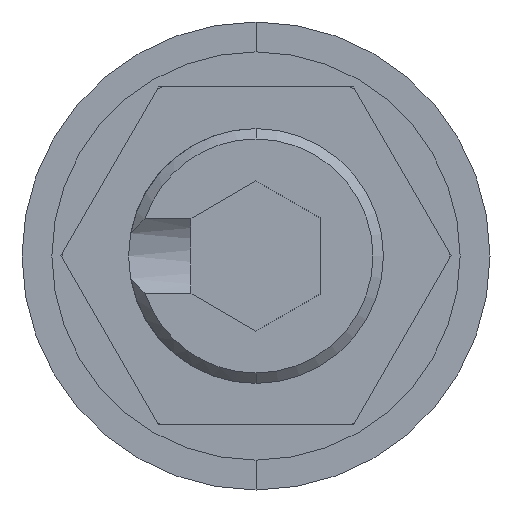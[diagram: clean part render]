
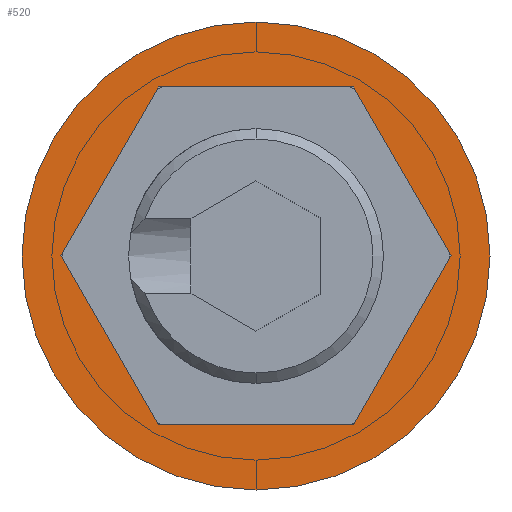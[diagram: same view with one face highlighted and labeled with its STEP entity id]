
A CAD part, front view. The second image highlights one B-rep face of the part: STEP entity #520.
In plain terms, the highlighted planar face has unit normal (0, -1, 0).
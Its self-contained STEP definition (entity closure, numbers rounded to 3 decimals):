
#70 = DIRECTION ( 'NONE',  ( -0.5, 0., -0.866 ) ) ;
#109 = EDGE_CURVE ( 'NONE', #986, #1974, #961, .T. ) ;
#110 = VERTEX_POINT ( 'NONE', #370 ) ;
#119 = VERTEX_POINT ( 'NONE', #400 ) ;
#149 = VECTOR ( 'NONE', #70, 1000. ) ;
#161 = ORIENTED_EDGE ( 'NONE', *, *, #787, .F. ) ;
#186 = CIRCLE ( 'NONE', #1338, 4.5 ) ;
#190 = AXIS2_PLACEMENT_3D ( 'NONE', #962, #971, #975 ) ;
#196 = LINE ( 'NONE', #419, #149 ) ;
#198 = VECTOR ( 'NONE', #1931, 1000. ) ;
#342 = ORIENTED_EDGE ( 'NONE', *, *, #1823, .F. ) ;
#366 = DIRECTION ( 'NONE',  ( -0.5, 0., 0.866 ) ) ;
#368 = CARTESIAN_POINT ( 'NONE',  ( 3.753, 0., 0. ) ) ;
#370 = CARTESIAN_POINT ( 'NONE',  ( -1.876, 0., 3.25 ) ) ;
#374 = LINE ( 'NONE', #2110, #198 ) ;
#383 = EDGE_LOOP ( 'NONE', ( #2125, #1401, #161, #393, #1564, #342 ) ) ;
#393 = ORIENTED_EDGE ( 'NONE', *, *, #1565, .F. ) ;
#400 = CARTESIAN_POINT ( 'NONE',  ( 0., 0., 4.5 ) ) ;
#419 = CARTESIAN_POINT ( 'NONE',  ( -1.876, 0., 3.25 ) ) ;
#520 = ADVANCED_FACE ( 'NONE', ( #1356, #1412 ), #951, .T. ) ;
#524 = LINE ( 'NONE', #1301, #1206 ) ;
#563 = CARTESIAN_POINT ( 'NONE',  ( 1.876, 0., 3.25 ) ) ;
#674 = CARTESIAN_POINT ( 'NONE',  ( 0., 0., -4.5 ) ) ;
#764 = EDGE_CURVE ( 'NONE', #1387, #1753, #374, .T. ) ;
#787 = EDGE_CURVE ( 'NONE', #110, #1763, #196, .T. ) ;
#817 = CIRCLE ( 'NONE', #973, 4.5 ) ;
#934 = CARTESIAN_POINT ( 'NONE',  ( -3.753, 0., 0. ) ) ;
#937 = VECTOR ( 'NONE', #366, 1000. ) ;
#951 = PLANE ( 'NONE',  #190 ) ;
#961 = LINE ( 'NONE', #368, #937 ) ;
#962 = CARTESIAN_POINT ( 'NONE',  ( 0., 0., 0. ) ) ;
#968 = DIRECTION ( 'NONE',  ( 0.5, 0., -0.866 ) ) ;
#971 = DIRECTION ( 'NONE',  ( 0., -1., 0. ) ) ;
#973 = AXIS2_PLACEMENT_3D ( 'NONE', #2036, #2037, #2045 ) ;
#975 = DIRECTION ( 'NONE',  ( 0., 0., -1. ) ) ;
#986 = VERTEX_POINT ( 'NONE', #1442 ) ;
#1046 = CARTESIAN_POINT ( 'NONE',  ( 1.876, 0., -3.25 ) ) ;
#1126 = LINE ( 'NONE', #934, #1441 ) ;
#1171 = CARTESIAN_POINT ( 'NONE',  ( -3.753, 0., 0. ) ) ;
#1206 = VECTOR ( 'NONE', #1504, 1000. ) ;
#1283 = EDGE_CURVE ( 'NONE', #1603, #119, #817, .T. ) ;
#1301 = CARTESIAN_POINT ( 'NONE',  ( 1.876, 0., -3.25 ) ) ;
#1338 = AXIS2_PLACEMENT_3D ( 'NONE', #1581, #1385, #1571 ) ;
#1356 = FACE_BOUND ( 'NONE', #383, .T. ) ;
#1385 = DIRECTION ( 'NONE',  ( 0., -1., 0. ) ) ;
#1387 = VERTEX_POINT ( 'NONE', #2131 ) ;
#1401 = ORIENTED_EDGE ( 'NONE', *, *, #1683, .F. ) ;
#1412 = FACE_OUTER_BOUND ( 'NONE', #1698, .T. ) ;
#1441 = VECTOR ( 'NONE', #968, 1000. ) ;
#1442 = CARTESIAN_POINT ( 'NONE',  ( 3.753, 0., 0. ) ) ;
#1504 = DIRECTION ( 'NONE',  ( 0.5, 0., 0.866 ) ) ;
#1564 = ORIENTED_EDGE ( 'NONE', *, *, #109, .F. ) ;
#1565 = EDGE_CURVE ( 'NONE', #1974, #110, #2070, .T. ) ;
#1571 = DIRECTION ( 'NONE',  ( 0., 0., -1. ) ) ;
#1581 = CARTESIAN_POINT ( 'NONE',  ( 0., 0., 0. ) ) ;
#1603 = VERTEX_POINT ( 'NONE', #674 ) ;
#1683 = EDGE_CURVE ( 'NONE', #1763, #1387, #1126, .T. ) ;
#1698 = EDGE_LOOP ( 'NONE', ( #2272, #1733 ) ) ;
#1715 = CARTESIAN_POINT ( 'NONE',  ( 1.876, 0., 3.25 ) ) ;
#1733 = ORIENTED_EDGE ( 'NONE', *, *, #2060, .T. ) ;
#1753 = VERTEX_POINT ( 'NONE', #1046 ) ;
#1763 = VERTEX_POINT ( 'NONE', #1171 ) ;
#1823 = EDGE_CURVE ( 'NONE', #1753, #986, #524, .T. ) ;
#1931 = DIRECTION ( 'NONE',  ( 1., 0., 0. ) ) ;
#1974 = VERTEX_POINT ( 'NONE', #1715 ) ;
#2001 = VECTOR ( 'NONE', #2258, 1000. ) ;
#2036 = CARTESIAN_POINT ( 'NONE',  ( 0., 0., 0. ) ) ;
#2037 = DIRECTION ( 'NONE',  ( 0., -1., 0. ) ) ;
#2045 = DIRECTION ( 'NONE',  ( 0., 0., -1. ) ) ;
#2060 = EDGE_CURVE ( 'NONE', #119, #1603, #186, .T. ) ;
#2070 = LINE ( 'NONE', #563, #2001 ) ;
#2110 = CARTESIAN_POINT ( 'NONE',  ( -1.876, 0., -3.25 ) ) ;
#2125 = ORIENTED_EDGE ( 'NONE', *, *, #764, .F. ) ;
#2131 = CARTESIAN_POINT ( 'NONE',  ( -1.876, 0., -3.25 ) ) ;
#2258 = DIRECTION ( 'NONE',  ( -1., 0., 0. ) ) ;
#2272 = ORIENTED_EDGE ( 'NONE', *, *, #1283, .T. ) ;
